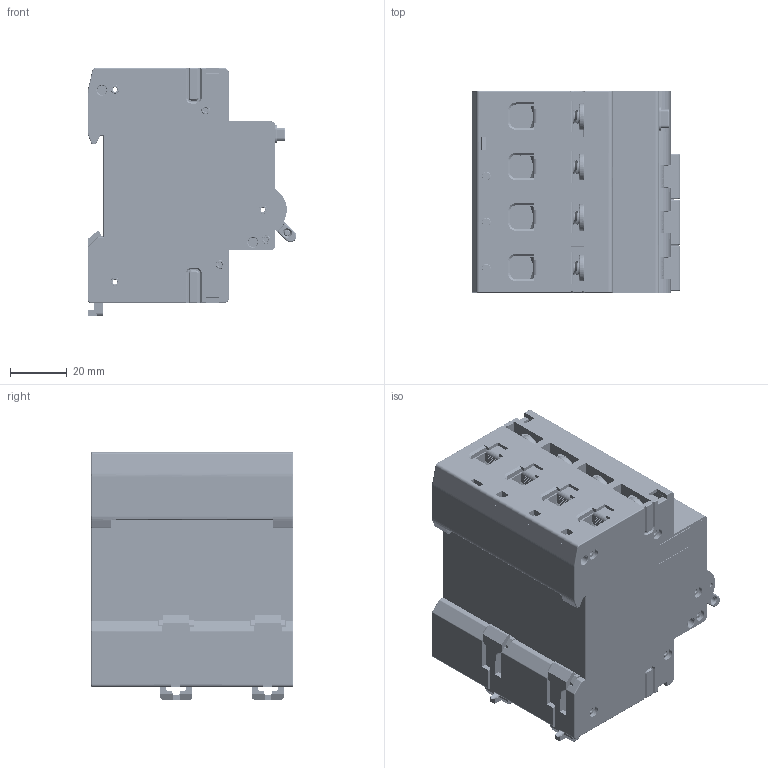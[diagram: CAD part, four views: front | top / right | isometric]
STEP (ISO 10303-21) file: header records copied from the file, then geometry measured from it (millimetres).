
FILE_DESCRIPTION (( 'STEP AP214' ), '1' );
FILE_NAME ('EVOKMA4C1303.STEP', '2026-07-13T14:01:15', ( '' ), ( '' ), 'SwSTEP 2.0', 'SolidWorks 2025', '' );
FILE_SCHEMA (( 'AUTOMOTIVE_DESIGN' ));
Length unit declared in the file: millimetre
Products named in the file (1): EVOKMA4C1303
Bounding box: 73.26 x 70.8 x 86.9 mm (x, y, z)
Surface area: 157437.4 mm2 (no closed solid volume)
Topology: 0 solids, 53 shells, 8908 faces, 26942 edges, 18432 vertices
Faces by surface type: plane 5823, cylinder 2360, bspline 524, torus 101, cone 100
Entity records: 497892 total; most frequent: CARTESIAN_POINT 173143, ORIENTED_EDGE 53679, DIRECTION 37985, EDGE_CURVE 26889, VERTEX_POINT 18432, LINE 15025, VECTOR 15025, AXIS2_PLACEMENT_3D 11480
